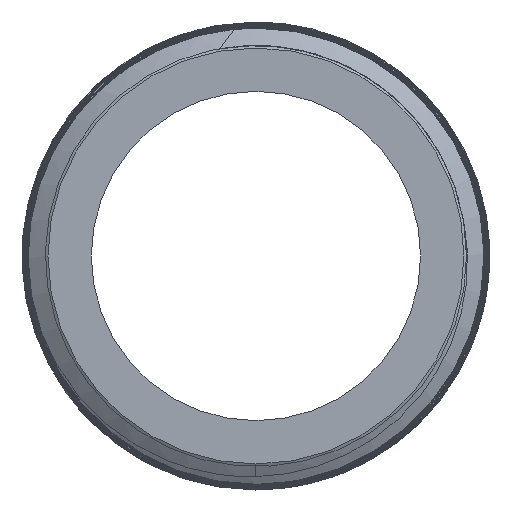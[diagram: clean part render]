
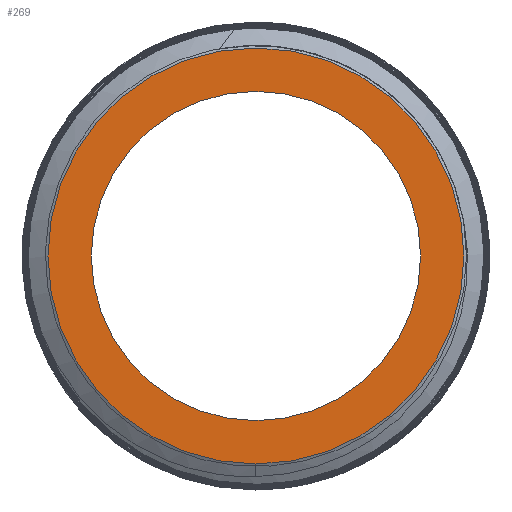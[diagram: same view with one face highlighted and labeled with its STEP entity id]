
A CAD part, left-side view. The second image highlights one B-rep face of the part: STEP entity #269.
In plain terms, the highlighted planar face has unit normal (-1, 0, 0).
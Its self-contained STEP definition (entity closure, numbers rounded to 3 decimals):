
#47 = AXIS2_PLACEMENT_3D ( 'NONE', #3341, #5549, #601 ) ;
#269 = ADVANCED_FACE ( 'NONE', ( #6380, #980 ), #5383, .F. ) ;
#577 = ORIENTED_EDGE ( 'NONE', *, *, #4686, .F. ) ;
#601 = DIRECTION ( 'NONE',  ( 0., 0., 1. ) ) ;
#977 = CIRCLE ( 'NONE', #1559, 6. ) ;
#980 = FACE_OUTER_BOUND ( 'NONE', #1873, .T. ) ;
#1073 = CARTESIAN_POINT ( 'NONE',  ( -150., 0., -6. ) ) ;
#1550 = DIRECTION ( 'NONE',  ( 0., 0., 1. ) ) ;
#1559 = AXIS2_PLACEMENT_3D ( 'NONE', #4214, #5926, #1550 ) ;
#1621 = AXIS2_PLACEMENT_3D ( 'NONE', #2501, #4113, #2004 ) ;
#1855 = CIRCLE ( 'NONE', #3693, 6. ) ;
#1873 = EDGE_LOOP ( 'NONE', ( #3795, #2264 ) ) ;
#1898 = ORIENTED_EDGE ( 'NONE', *, *, #5548, .F. ) ;
#2004 = DIRECTION ( 'NONE',  ( 0., 0., 1. ) ) ;
#2264 = ORIENTED_EDGE ( 'NONE', *, *, #6402, .T. ) ;
#2307 = EDGE_LOOP ( 'NONE', ( #1898, #577 ) ) ;
#2501 = CARTESIAN_POINT ( 'NONE',  ( -150., 0., 0. ) ) ;
#2658 = VERTEX_POINT ( 'NONE', #7140 ) ;
#2843 = CARTESIAN_POINT ( 'NONE',  ( -150., 0., 0. ) ) ;
#3178 = DIRECTION ( 'NONE',  ( 1., 0., 0. ) ) ;
#3331 = VERTEX_POINT ( 'NONE', #6143 ) ;
#3341 = CARTESIAN_POINT ( 'NONE',  ( -150., 0., 0. ) ) ;
#3693 = AXIS2_PLACEMENT_3D ( 'NONE', #2843, #5670, #4976 ) ;
#3795 = ORIENTED_EDGE ( 'NONE', *, *, #4882, .T. ) ;
#4113 = DIRECTION ( 'NONE',  ( -1., 0., 0. ) ) ;
#4192 = CARTESIAN_POINT ( 'NONE',  ( -150., 4.75, 0. ) ) ;
#4214 = CARTESIAN_POINT ( 'NONE',  ( -150., 0., 0. ) ) ;
#4580 = AXIS2_PLACEMENT_3D ( 'NONE', #4192, #3178, #5509 ) ;
#4686 = EDGE_CURVE ( 'NONE', #2658, #3331, #6293, .T. ) ;
#4715 = VERTEX_POINT ( 'NONE', #5774 ) ;
#4724 = CIRCLE ( 'NONE', #1621, 4.75 ) ;
#4882 = EDGE_CURVE ( 'NONE', #6725, #4715, #977, .T. ) ;
#4976 = DIRECTION ( 'NONE',  ( 0., 0., 1. ) ) ;
#5383 = PLANE ( 'NONE',  #4580 ) ;
#5509 = DIRECTION ( 'NONE',  ( 0., 0., -1. ) ) ;
#5548 = EDGE_CURVE ( 'NONE', #3331, #2658, #4724, .T. ) ;
#5549 = DIRECTION ( 'NONE',  ( -1., 0., 0. ) ) ;
#5670 = DIRECTION ( 'NONE',  ( -1., 0., 0. ) ) ;
#5774 = CARTESIAN_POINT ( 'NONE',  ( -150., 0., 6. ) ) ;
#5926 = DIRECTION ( 'NONE',  ( -1., 0., 0. ) ) ;
#6143 = CARTESIAN_POINT ( 'NONE',  ( -150., 0., 4.75 ) ) ;
#6293 = CIRCLE ( 'NONE', #47, 4.75 ) ;
#6380 = FACE_BOUND ( 'NONE', #2307, .T. ) ;
#6402 = EDGE_CURVE ( 'NONE', #4715, #6725, #1855, .T. ) ;
#6725 = VERTEX_POINT ( 'NONE', #1073 ) ;
#7140 = CARTESIAN_POINT ( 'NONE',  ( -150., 0., -4.75 ) ) ;
